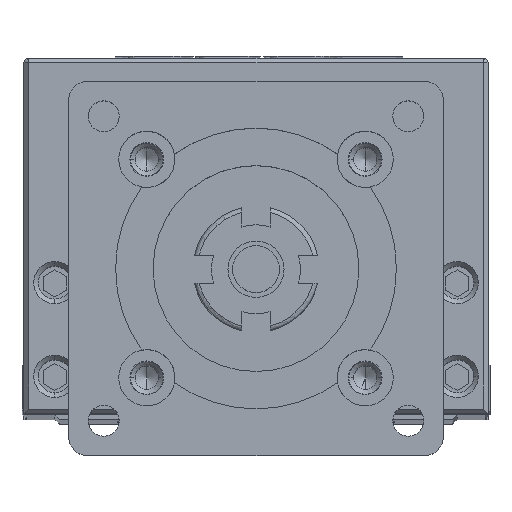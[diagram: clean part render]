
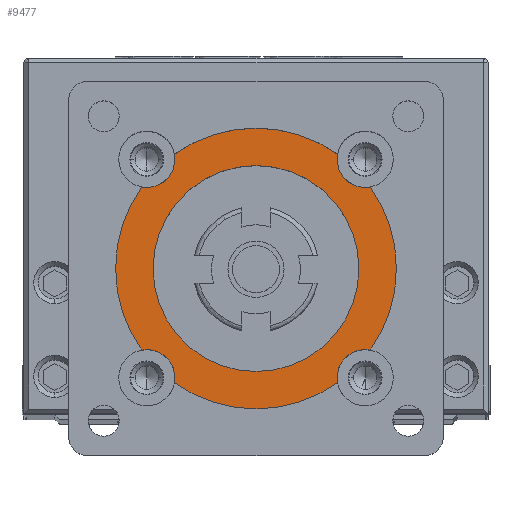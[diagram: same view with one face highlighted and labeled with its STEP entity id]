
A CAD part, top view. The second image highlights one B-rep face of the part: STEP entity #9477.
In plain terms, the highlighted planar face has unit normal (0, 0, 1).
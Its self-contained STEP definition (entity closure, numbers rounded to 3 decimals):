
#114 = VERTEX_POINT ( 'NONE', #24457 ) ;
#902 = EDGE_CURVE ( 'NONE', #82723, #911, #40538, .T. ) ;
#911 = VERTEX_POINT ( 'NONE', #7152 ) ;
#1376 = EDGE_CURVE ( 'NONE', #29882, #114, #67072, .T. ) ;
#1504 = DIRECTION ( 'NONE',  ( 1., 0., 0. ) ) ;
#1863 = CARTESIAN_POINT ( 'NONE',  ( 8.667, -11.667, 5.5 ) ) ;
#1925 = PLANE ( 'NONE',  #42228 ) ;
#2186 = CARTESIAN_POINT ( 'NONE',  ( 8.716, -12.208, 5.5 ) ) ;
#2730 = DIRECTION ( 'NONE',  ( 1., 0., 0. ) ) ;
#3041 = DIRECTION ( 'NONE',  ( 0., 0., 1. ) ) ;
#3701 = EDGE_CURVE ( 'NONE', #28744, #29882, #34678, .T. ) ;
#3747 = VERTEX_POINT ( 'NONE', #34191 ) ;
#4108 = AXIS2_PLACEMENT_3D ( 'NONE', #43776, #68301, #36252 ) ;
#4535 = CARTESIAN_POINT ( 'NONE',  ( 11.667, 11.667, 5.5 ) ) ;
#4981 = AXIS2_PLACEMENT_3D ( 'NONE', #61193, #22913, #48502 ) ;
#5243 = ORIENTED_EDGE ( 'NONE', *, *, #65036, .F. ) ;
#5797 = DIRECTION ( 'NONE',  ( 0., 0., 1. ) ) ;
#6016 = AXIS2_PLACEMENT_3D ( 'NONE', #34340, #66770, #1504 ) ;
#6045 = DIRECTION ( 'NONE',  ( 1., 0., 0. ) ) ;
#6100 = DIRECTION ( 'NONE',  ( 0., 0., 1. ) ) ;
#6727 = CARTESIAN_POINT ( 'NONE',  ( 0., 0., 5.5 ) ) ;
#7152 = CARTESIAN_POINT ( 'NONE',  ( 15., 0., 5.5 ) ) ;
#7306 = DIRECTION ( 'NONE',  ( 0., 0., 1. ) ) ;
#7395 = ORIENTED_EDGE ( 'NONE', *, *, #1376, .F. ) ;
#8718 = CIRCLE ( 'NONE', #6016, 3. ) ;
#9477 = ADVANCED_FACE ( 'NONE', ( #13344, #52011 ), #1925, .T. ) ;
#10156 = AXIS2_PLACEMENT_3D ( 'NONE', #27640, #66724, #2730 ) ;
#11654 = AXIS2_PLACEMENT_3D ( 'NONE', #45523, #7306, #82621 ) ;
#12353 = CARTESIAN_POINT ( 'NONE',  ( 0., 0., 5.5 ) ) ;
#13134 = ORIENTED_EDGE ( 'NONE', *, *, #16473, .T. ) ;
#13344 = FACE_BOUND ( 'NONE', #77960, .T. ) ;
#14867 = CARTESIAN_POINT ( 'NONE',  ( 11., 0., 5.5 ) ) ;
#15584 = AXIS2_PLACEMENT_3D ( 'NONE', #12353, #61740, #6045 ) ;
#15752 = ORIENTED_EDGE ( 'NONE', *, *, #61484, .F. ) ;
#16473 = EDGE_CURVE ( 'NONE', #42149, #114, #46358, .T. ) ;
#16726 = CARTESIAN_POINT ( 'NONE',  ( -8.716, -12.208, 5.5 ) ) ;
#16800 = DIRECTION ( 'NONE',  ( 0., 0., 1. ) ) ;
#18047 = CARTESIAN_POINT ( 'NONE',  ( -12.208, -8.716, 5.5 ) ) ;
#18791 = EDGE_CURVE ( 'NONE', #82723, #21973, #61216, .T. ) ;
#19941 = EDGE_CURVE ( 'NONE', #28744, #78580, #27361, .T. ) ;
#21973 = VERTEX_POINT ( 'NONE', #1863 ) ;
#22020 = DIRECTION ( 'NONE',  ( 1., 0., 0. ) ) ;
#22756 = AXIS2_PLACEMENT_3D ( 'NONE', #80195, #74762, #81452 ) ;
#22913 = DIRECTION ( 'NONE',  ( 0., 0., 1. ) ) ;
#24457 = CARTESIAN_POINT ( 'NONE',  ( -8.716, 12.208, 5.5 ) ) ;
#24484 = CARTESIAN_POINT ( 'NONE',  ( -8.667, -11.667, 5.5 ) ) ;
#24872 = DIRECTION ( 'NONE',  ( 0., 0., 1. ) ) ;
#27183 = ORIENTED_EDGE ( 'NONE', *, *, #37525, .F. ) ;
#27361 = CIRCLE ( 'NONE', #74378, 15. ) ;
#27640 = CARTESIAN_POINT ( 'NONE',  ( 0., 0., 5.5 ) ) ;
#28744 = VERTEX_POINT ( 'NONE', #69646 ) ;
#29038 = AXIS2_PLACEMENT_3D ( 'NONE', #64253, #5797, #32262 ) ;
#29675 = DIRECTION ( 'NONE',  ( 1., 0., 0. ) ) ;
#29882 = VERTEX_POINT ( 'NONE', #83190 ) ;
#30333 = ORIENTED_EDGE ( 'NONE', *, *, #40784, .T. ) ;
#30446 = CARTESIAN_POINT ( 'NONE',  ( -11., 0., 5.5 ) ) ;
#31567 = CARTESIAN_POINT ( 'NONE',  ( 11.667, -11.667, 5.5 ) ) ;
#32262 = DIRECTION ( 'NONE',  ( 1., 0., 0. ) ) ;
#33519 = DIRECTION ( 'NONE',  ( 0., 0., 1. ) ) ;
#34191 = CARTESIAN_POINT ( 'NONE',  ( 12.208, 8.716, 5.5 ) ) ;
#34340 = CARTESIAN_POINT ( 'NONE',  ( 11.667, 11.667, 5.5 ) ) ;
#34678 = CIRCLE ( 'NONE', #81722, 3. ) ;
#36252 = DIRECTION ( 'NONE',  ( 1., 0., 0. ) ) ;
#37026 = CIRCLE ( 'NONE', #15584, 15. ) ;
#37525 = EDGE_CURVE ( 'NONE', #65544, #78580, #50474, .T. ) ;
#38280 = DIRECTION ( 'NONE',  ( 1., 0., 0. ) ) ;
#40184 = DIRECTION ( 'NONE',  ( 1., 0., 0. ) ) ;
#40538 = CIRCLE ( 'NONE', #62146, 15. ) ;
#40784 = EDGE_CURVE ( 'NONE', #911, #3747, #37026, .T. ) ;
#42149 = VERTEX_POINT ( 'NONE', #59558 ) ;
#42228 = AXIS2_PLACEMENT_3D ( 'NONE', #78939, #33519, #40184 ) ;
#43164 = VERTEX_POINT ( 'NONE', #2186 ) ;
#43776 = CARTESIAN_POINT ( 'NONE',  ( 0., 0., 5.5 ) ) ;
#44131 = AXIS2_PLACEMENT_3D ( 'NONE', #80558, #48553, #29675 ) ;
#45523 = CARTESIAN_POINT ( 'NONE',  ( 0., 0., 5.5 ) ) ;
#46178 = ORIENTED_EDGE ( 'NONE', *, *, #3701, .F. ) ;
#46358 = CIRCLE ( 'NONE', #10156, 15. ) ;
#47056 = CIRCLE ( 'NONE', #48391, 3. ) ;
#48155 = EDGE_CURVE ( 'NONE', #75684, #43164, #59013, .T. ) ;
#48391 = AXIS2_PLACEMENT_3D ( 'NONE', #71316, #6100, #70912 ) ;
#48502 = DIRECTION ( 'NONE',  ( 1., 0., 0. ) ) ;
#48553 = DIRECTION ( 'NONE',  ( 0., 0., 1. ) ) ;
#49087 = CARTESIAN_POINT ( 'NONE',  ( 8.667, 11.667, 5.5 ) ) ;
#49474 = EDGE_CURVE ( 'NONE', #64943, #73629, #76685, .T. ) ;
#49532 = DIRECTION ( 'NONE',  ( 0., 0., 1. ) ) ;
#50474 = CIRCLE ( 'NONE', #29038, 3. ) ;
#51610 = EDGE_CURVE ( 'NONE', #54373, #3747, #8718, .T. ) ;
#52011 = FACE_OUTER_BOUND ( 'NONE', #65959, .T. ) ;
#52705 = EDGE_CURVE ( 'NONE', #73629, #64943, #61390, .T. ) ;
#53958 = CARTESIAN_POINT ( 'NONE',  ( -11.667, 11.667, 5.5 ) ) ;
#54373 = VERTEX_POINT ( 'NONE', #49087 ) ;
#55821 = EDGE_CURVE ( 'NONE', #75684, #65544, #47056, .T. ) ;
#57128 = DIRECTION ( 'NONE',  ( 1., 0., 0. ) ) ;
#58595 = AXIS2_PLACEMENT_3D ( 'NONE', #4535, #49532, #57128 ) ;
#59013 = CIRCLE ( 'NONE', #44131, 15. ) ;
#59558 = CARTESIAN_POINT ( 'NONE',  ( 8.716, 12.208, 5.5 ) ) ;
#60078 = ORIENTED_EDGE ( 'NONE', *, *, #51610, .F. ) ;
#60707 = ORIENTED_EDGE ( 'NONE', *, *, #48155, .T. ) ;
#60985 = DIRECTION ( 'NONE',  ( 1., 0., 0. ) ) ;
#61193 = CARTESIAN_POINT ( 'NONE',  ( 11.667, -11.667, 5.5 ) ) ;
#61216 = CIRCLE ( 'NONE', #62555, 3. ) ;
#61390 = CIRCLE ( 'NONE', #11654, 11. ) ;
#61484 = EDGE_CURVE ( 'NONE', #42149, #54373, #63897, .T. ) ;
#61740 = DIRECTION ( 'NONE',  ( 0., 0., 1. ) ) ;
#61815 = CARTESIAN_POINT ( 'NONE',  ( 0., 0., 5.5 ) ) ;
#62146 = AXIS2_PLACEMENT_3D ( 'NONE', #6727, #63152, #38280 ) ;
#62555 = AXIS2_PLACEMENT_3D ( 'NONE', #31567, #24872, #70706 ) ;
#63152 = DIRECTION ( 'NONE',  ( 0., 0., 1. ) ) ;
#63897 = CIRCLE ( 'NONE', #58595, 3. ) ;
#64253 = CARTESIAN_POINT ( 'NONE',  ( -11.667, -11.667, 5.5 ) ) ;
#64943 = VERTEX_POINT ( 'NONE', #30446 ) ;
#65036 = EDGE_CURVE ( 'NONE', #21973, #43164, #82906, .T. ) ;
#65544 = VERTEX_POINT ( 'NONE', #24484 ) ;
#65959 = EDGE_LOOP ( 'NONE', ( #71860, #76737, #30333, #60078, #15752, #13134, #7395, #46178, #75798, #27183, #75195, #60707, #5243 ) ) ;
#66724 = DIRECTION ( 'NONE',  ( 0., 0., 1. ) ) ;
#66770 = DIRECTION ( 'NONE',  ( 0., 0., 1. ) ) ;
#67072 = CIRCLE ( 'NONE', #22756, 3. ) ;
#67247 = CARTESIAN_POINT ( 'NONE',  ( 12.208, -8.716, 5.5 ) ) ;
#68301 = DIRECTION ( 'NONE',  ( 0., 0., 1. ) ) ;
#68623 = ORIENTED_EDGE ( 'NONE', *, *, #49474, .F. ) ;
#69646 = CARTESIAN_POINT ( 'NONE',  ( -12.208, 8.716, 5.5 ) ) ;
#70706 = DIRECTION ( 'NONE',  ( 1., 0., 0. ) ) ;
#70912 = DIRECTION ( 'NONE',  ( 1., 0., 0. ) ) ;
#71316 = CARTESIAN_POINT ( 'NONE',  ( -11.667, -11.667, 5.5 ) ) ;
#71860 = ORIENTED_EDGE ( 'NONE', *, *, #18791, .F. ) ;
#71890 = ORIENTED_EDGE ( 'NONE', *, *, #52705, .F. ) ;
#73629 = VERTEX_POINT ( 'NONE', #14867 ) ;
#74378 = AXIS2_PLACEMENT_3D ( 'NONE', #61815, #16800, #60985 ) ;
#74762 = DIRECTION ( 'NONE',  ( 0., 0., 1. ) ) ;
#75195 = ORIENTED_EDGE ( 'NONE', *, *, #55821, .F. ) ;
#75684 = VERTEX_POINT ( 'NONE', #16726 ) ;
#75798 = ORIENTED_EDGE ( 'NONE', *, *, #19941, .T. ) ;
#76685 = CIRCLE ( 'NONE', #4108, 11. ) ;
#76737 = ORIENTED_EDGE ( 'NONE', *, *, #902, .T. ) ;
#77960 = EDGE_LOOP ( 'NONE', ( #71890, #68623 ) ) ;
#78580 = VERTEX_POINT ( 'NONE', #18047 ) ;
#78939 = CARTESIAN_POINT ( 'NONE',  ( 0., 0., 5.5 ) ) ;
#80195 = CARTESIAN_POINT ( 'NONE',  ( -11.667, 11.667, 5.5 ) ) ;
#80558 = CARTESIAN_POINT ( 'NONE',  ( 0., 0., 5.5 ) ) ;
#81452 = DIRECTION ( 'NONE',  ( 1., 0., 0. ) ) ;
#81722 = AXIS2_PLACEMENT_3D ( 'NONE', #53958, #3041, #22020 ) ;
#82621 = DIRECTION ( 'NONE',  ( 1., 0., 0. ) ) ;
#82723 = VERTEX_POINT ( 'NONE', #67247 ) ;
#82906 = CIRCLE ( 'NONE', #4981, 3. ) ;
#83190 = CARTESIAN_POINT ( 'NONE',  ( -8.667, 11.667, 5.5 ) ) ;
